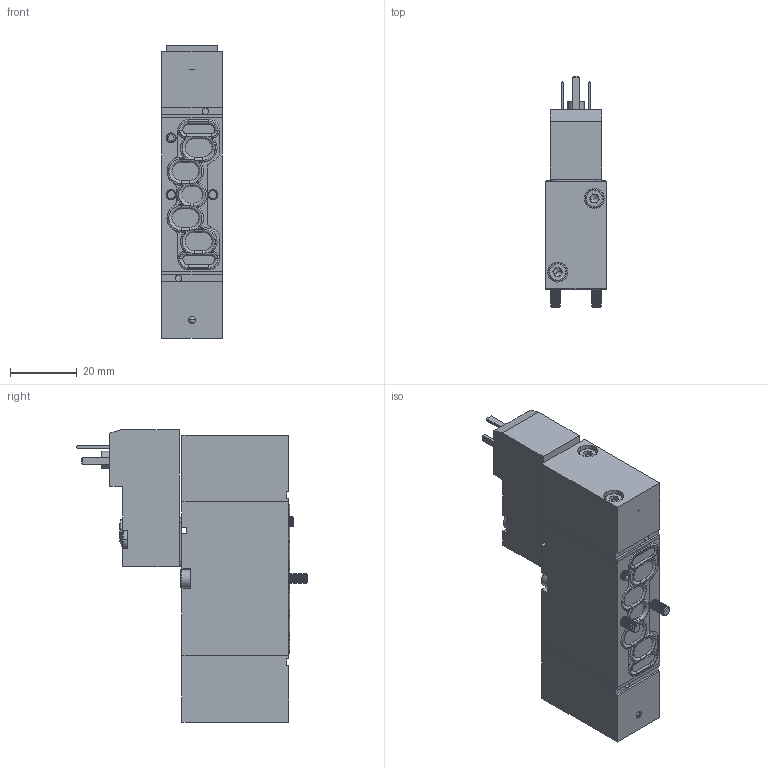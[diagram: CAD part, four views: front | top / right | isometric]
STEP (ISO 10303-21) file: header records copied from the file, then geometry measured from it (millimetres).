
FILE_DESCRIPTION (( 'STEP AP214' ), '1' );
FILE_NAME ('05_124_4.STEP', '2016-02-26T08:58:58', ( '' ), ( '' ), 'SwSTEP 2.0', 'SolidWorks 2016', '' );
FILE_SCHEMA (( 'AUTOMOTIVE_DESIGN' ));
Length unit declared in the file: millimetre
Products named in the file (1): 05_124_4
Bounding box: 18 x 69.2 x 87.6 mm (x, y, z)
Volume: 61976.2 mm3; surface area: 21762.4 mm2
Topology: 24 solids, 24 shells, 2083 faces, 5369 edges, 3316 vertices
Faces by surface type: cone 971, cylinder 654, plane 322, torus 128, sphere 8
Entity records: 64596 total; most frequent: DIRECTION 12473, CARTESIAN_POINT 11050, ORIENTED_EDGE 10638, EDGE_CURVE 5319, AXIS2_PLACEMENT_3D 5139, VERTEX_POINT 3310, CIRCLE 3055, LINE 2195
